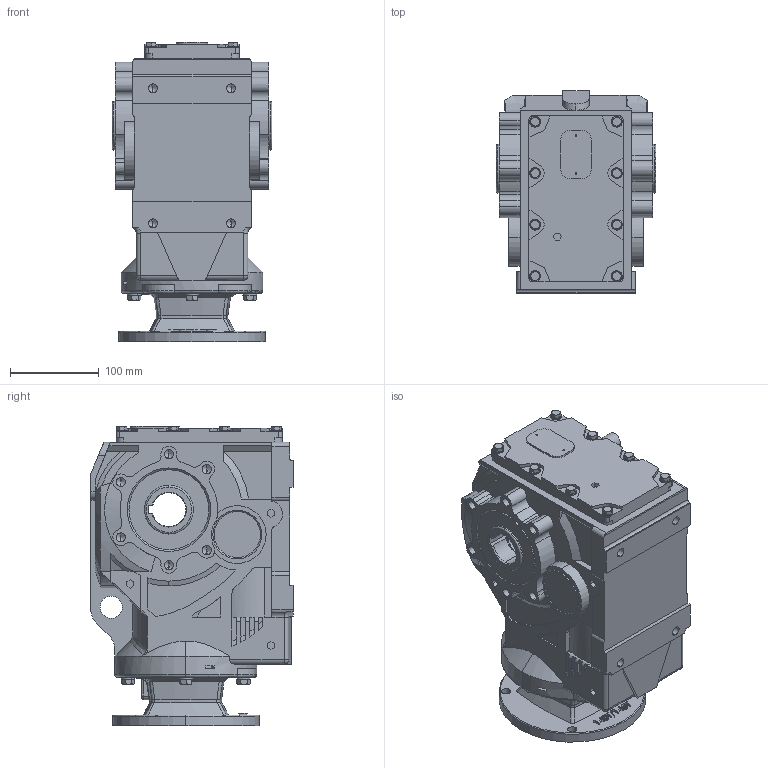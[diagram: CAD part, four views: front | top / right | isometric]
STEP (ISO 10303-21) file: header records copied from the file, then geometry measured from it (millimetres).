
FILE_DESCRIPTION (( 'STEP AP203' ), '1' );
FILE_NAME ('KAN67-143-5TC.STEP', '2022-04-09T01:26:07', ( 'user1' ), ( '' ), 'SwSTEP 2.0', 'SolidWorks 2012', '' );
FILE_SCHEMA (( 'CONFIG_CONTROL_DESIGN' ));
Length unit declared in the file: millimetre
Products named in the file (1): KAN67-143-5TC
Bounding box: 180 x 228 x 337.5 mm (x, y, z)
Volume: 7915691.5 mm3; surface area: 391100.5 mm2
Topology: 1 solids, 1 shells, 1247 faces, 3310 edges, 2124 vertices
Faces by surface type: plane 614, cylinder 380, bspline 120, cone 111, torus 20, sphere 2
Entity records: 47362 total; most frequent: CARTESIAN_POINT 17093, ORIENTED_EDGE 6548, DIRECTION 5888, EDGE_CURVE 3274, VERTEX_POINT 2124, AXIS2_PLACEMENT_3D 2007, LINE 1874, VECTOR 1874
